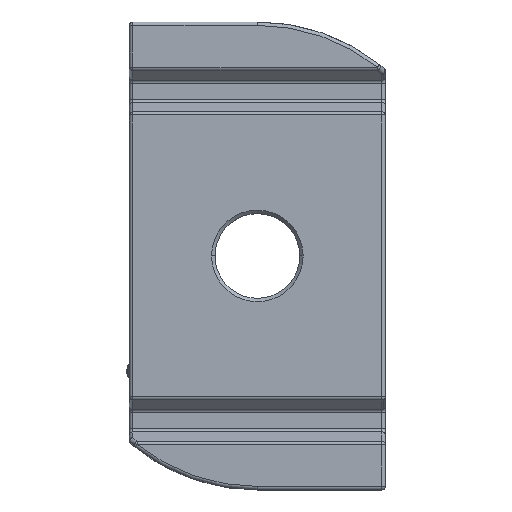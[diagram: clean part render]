
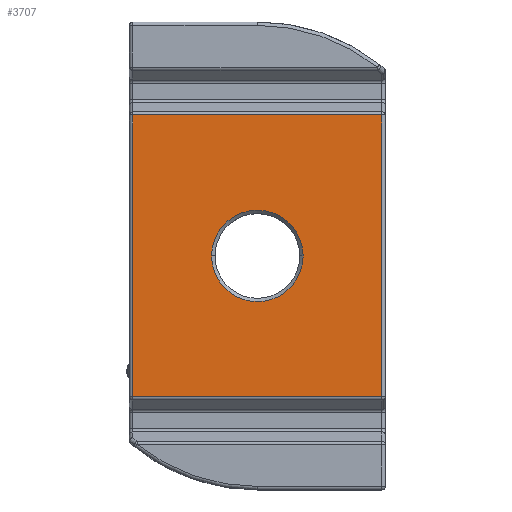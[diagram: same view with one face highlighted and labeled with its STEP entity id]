
A CAD part, top view. The second image highlights one B-rep face of the part: STEP entity #3707.
In plain terms, the highlighted planar face has unit normal (0, 0, 1).
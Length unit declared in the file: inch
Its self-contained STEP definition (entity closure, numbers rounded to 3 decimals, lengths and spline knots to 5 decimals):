
#212=DIRECTION('',(0.,-1.,0.));
#213=VECTOR('',#212,0.83152);
#214=CARTESIAN_POINT('',(-0.3675,0.41574,0.25));
#215=LINE('',#214,#213);
#216=DIRECTION('',(-1.,0.,0.));
#217=VECTOR('',#216,0.735);
#218=CARTESIAN_POINT('',(0.3675,0.41574,0.25));
#219=LINE('',#218,#217);
#220=DIRECTION('',(0.,1.,0.));
#221=VECTOR('',#220,0.83152);
#222=CARTESIAN_POINT('',(0.3675,-0.41578,0.25));
#223=LINE('',#222,#221);
#224=DIRECTION('',(1.,0.,0.));
#225=VECTOR('',#224,0.735);
#226=CARTESIAN_POINT('',(-0.3675,-0.41578,0.25));
#227=LINE('',#226,#225);
#262=CARTESIAN_POINT('',(0.,0.,0.25));
#263=DIRECTION('',(0.,0.,-1.));
#264=DIRECTION('',(1.,0.,0.));
#265=AXIS2_PLACEMENT_3D('',#262,#263,#264);
#267=CARTESIAN_POINT('',(0.,0.,0.25));
#268=DIRECTION('',(0.,0.,-1.));
#269=DIRECTION('',(-1.,0.,0.));
#270=AXIS2_PLACEMENT_3D('',#267,#268,#269);
#3141=CARTESIAN_POINT('',(-0.3675,0.41574,0.25));
#3142=CARTESIAN_POINT('',(-0.3675,-0.41578,0.25));
#3143=VERTEX_POINT('',#3141);
#3144=VERTEX_POINT('',#3142);
#3265=CARTESIAN_POINT('',(0.3675,-0.41578,0.25));
#3266=VERTEX_POINT('',#3265);
#3269=CARTESIAN_POINT('',(0.3675,0.41574,0.25));
#3270=VERTEX_POINT('',#3269);
#3387=CARTESIAN_POINT('',(0.135,0.,0.25));
#3388=CARTESIAN_POINT('',(-0.135,0.,0.25));
#3389=VERTEX_POINT('',#3387);
#3390=VERTEX_POINT('',#3388);
#3686=CARTESIAN_POINT('',(0.,0.,0.25));
#3687=DIRECTION('',(0.,0.,1.));
#3688=DIRECTION('',(1.,0.,0.));
#3689=AXIS2_PLACEMENT_3D('',#3686,#3687,#3688);
#3690=PLANE('',#3689);
#3692=ORIENTED_EDGE('',*,*,#3691,.F.);
#3694=ORIENTED_EDGE('',*,*,#3693,.F.);
#3696=ORIENTED_EDGE('',*,*,#3695,.F.);
#3698=ORIENTED_EDGE('',*,*,#3697,.F.);
#3699=EDGE_LOOP('',(#3692,#3694,#3696,#3698));
#3700=FACE_OUTER_BOUND('',#3699,.F.);
#3702=ORIENTED_EDGE('',*,*,#3701,.F.);
#3704=ORIENTED_EDGE('',*,*,#3703,.F.);
#3705=EDGE_LOOP('',(#3702,#3704));
#3706=FACE_BOUND('',#3705,.F.);
#3707=ADVANCED_FACE('',(#3700,#3706),#3690,.T.);
#266=CIRCLE('',#265,0.135);
#271=CIRCLE('',#270,0.135);
#3691=EDGE_CURVE('',#3143,#3144,#215,.T.);
#3693=EDGE_CURVE('',#3270,#3143,#219,.T.);
#3695=EDGE_CURVE('',#3266,#3270,#223,.T.);
#3697=EDGE_CURVE('',#3144,#3266,#227,.T.);
#3701=EDGE_CURVE('',#3389,#3390,#266,.T.);
#3703=EDGE_CURVE('',#3390,#3389,#271,.T.);
